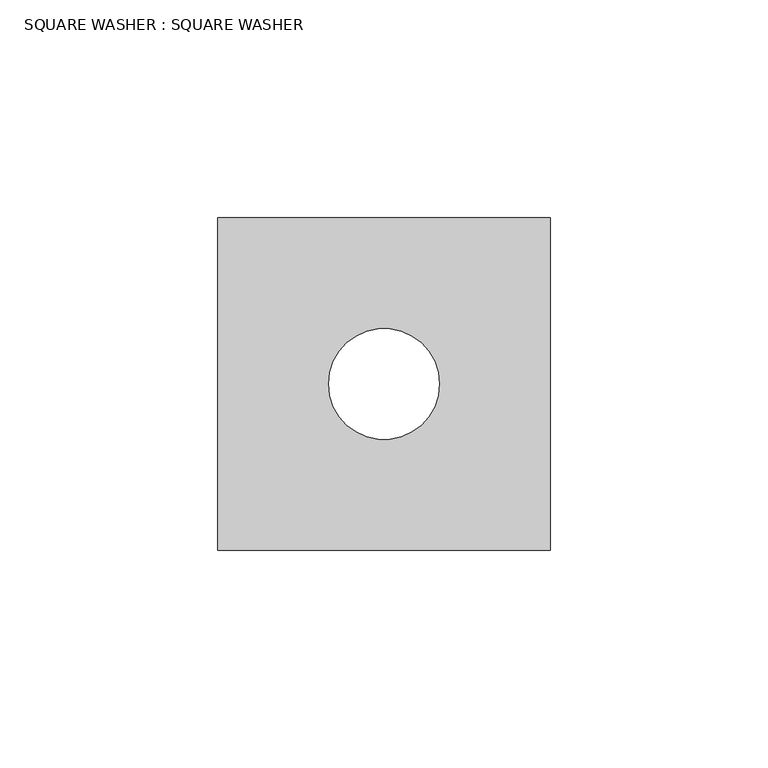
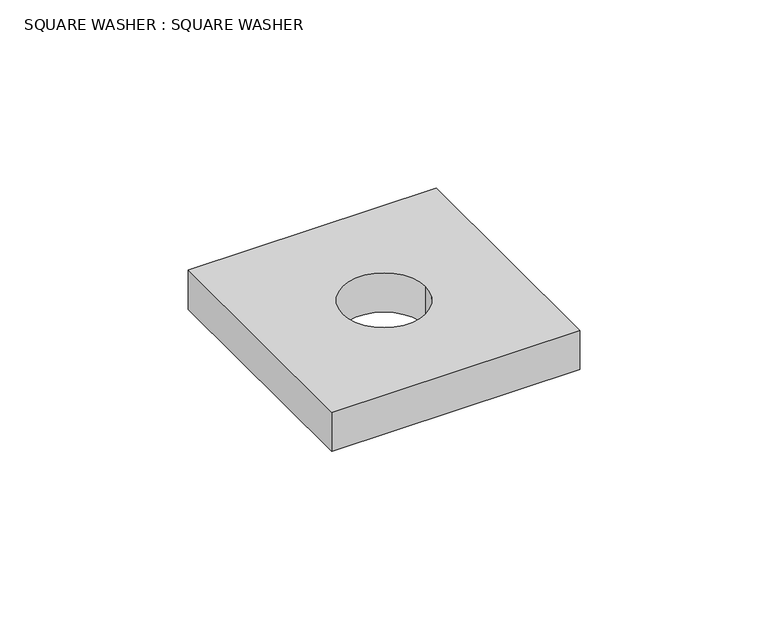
"""IFC4 building model written with IfcOpenShell, lengths in millimetres: proxy geometry, SQUARE WASHER : SQUARE WASHER."""

import ifcopenshell
import ifcopenshell.guid

model = None  # the IFC model being written
_history = None  # IfcOwnerHistory: only IFC2X3 demands one
_inside = {}  # id of a spatial element -> (the spatial element, [elements in it])
_under = {}  # id of a project, library or spatial element -> (it, [spatial elements below it])
_declared = {}  # id of a project -> (the project, [libraries it declares])
_typed = {}  # id of a type object -> (the type object, [elements of that type])
_made_of = {}  # id of a material, layer set ... -> (it, [elements and type objects made of it])


def new_model(schema):
    """Start an empty IFC model of exactly this schema.

    Asked for "IFC4X3", IfcOpenShell would pick the latest addendum, in which some entities
    have other attributes; the version numbers below select the first issue.
    IFC2X3 requires an IfcOwnerHistory on every rooted entity: one is made here for all.
    """
    global model, _history
    if schema == "IFC4X3":
        model = ifcopenshell.file(schema_version=(4, 3, 0, 0))
    else:
        model = ifcopenshell.file(schema=schema)
    _inside.clear()
    _under.clear()
    _declared.clear()
    _typed.clear()
    _made_of.clear()
    _history = None
    if model.schema == "IFC2X3":
        org = make("IfcOrganization", Name="unknown")
        user = make(
            "IfcPersonAndOrganization",
            ThePerson=make("IfcPerson", FamilyName="unknown"),
            TheOrganization=org,
        )
        app = make(
            "IfcApplication",
            ApplicationDeveloper=org,
            Version="unknown",
            ApplicationFullName="unknown",
            ApplicationIdentifier="unknown",
        )
        _history = make(
            "IfcOwnerHistory",
            OwningUser=user,
            OwningApplication=app,
            ChangeAction="ADDED",
            CreationDate=0,
        )
    return model


def make(cls, **values):
    """One entity of the class cls with the attributes given. An attribute that is None is left unset."""
    return model.create_entity(
        cls, **{name: value for name, value in values.items() if value is not None}
    )


def rooted(cls, **values):
    """An entity with a GlobalId (a new one), such as an element, a storey or a relation."""
    return make(cls, GlobalId=ifcopenshell.guid.new(), OwnerHistory=_history, **values)


def si_unit(unit_type, name, prefix=None):
    """IfcSIUnit, for example si_unit("LENGTHUNIT", "METRE", prefix="MILLI")."""
    return make("IfcSIUnit", UnitType=unit_type, Prefix=prefix, Name=name)


def assignment(units):
    """IfcUnitAssignment: the units of a project."""
    return None if units is None else make("IfcUnitAssignment", Units=units)


def point(xyz):
    """IfcCartesianPoint."""
    return None if xyz is None else make("IfcCartesianPoint", Coordinates=xyz)


def direction(xyz):
    """IfcDirection."""
    return None if xyz is None else make("IfcDirection", DirectionRatios=xyz)


def frame(location, z_axis=None, x_axis=None):
    """IfcAxis2Placement3D, a coordinate frame: its origin and axes. An axis left out is left unset."""
    return make(
        "IfcAxis2Placement3D",
        Location=point(location),
        Axis=direction(z_axis),
        RefDirection=direction(x_axis),
    )


def frame_2d(location, x_axis=None):
    """IfcAxis2Placement2D, a coordinate frame in the plane: its origin and x axis."""
    return make(
        "IfcAxis2Placement2D", Location=point(location), RefDirection=direction(x_axis)
    )


def origin():
    """The frame at (0, 0, 0) with its axes left unset."""
    return frame((0.0, 0.0, 0.0))


def origin_with_axes():
    """The frame at (0, 0, 0) with the z axis (0, 0, 1) and the x axis (1, 0, 0) written out."""
    return frame((0.0, 0.0, 0.0), z_axis=(0.0, 0.0, 1.0), x_axis=(1.0, 0.0, 0.0))


def origin_2d():
    """The frame at (0, 0) in the plane with its x axis left unset."""
    return frame_2d((0.0, 0.0))


def place(relative_to, where):
    """IfcLocalPlacement: puts the frame where relative to a parent placement (None: the world)."""
    return make(
        "IfcLocalPlacement", PlacementRelTo=relative_to, RelativePlacement=where
    )


def context(
    kind, dimensions, precision=None, world=None, true_north=None, identifier=None
):
    """IfcGeometricRepresentationContext, for example the 3D "Model" context."""
    return make(
        "IfcGeometricRepresentationContext",
        ContextIdentifier=identifier,
        ContextType=kind,
        CoordinateSpaceDimension=dimensions,
        Precision=precision,
        WorldCoordinateSystem=world,
        TrueNorth=true_north,
    )


def project(units=None, contexts=None):
    """IfcProject with its units and contexts."""
    return rooted(
        "IfcProject",
        Name="project",
        RepresentationContexts=contexts,
        UnitsInContext=assignment(units),
    )


def spatial(cls, under=None, at=None, **own):
    """A site, building, storey or space (cls), placed at a placement, below another one or the project."""
    s = rooted(cls, ObjectPlacement=at, **own)
    if under is not None:
        _under.setdefault(under.id(), (under, []))[1].append(s)
    return s


def polyline(points):
    """IfcPolyline through the points."""
    return make("IfcPolyline", Points=[point(p) for p in points])


def circle_curve(where, radius):
    """IfcCircle in the frame where."""
    return make("IfcCircle", Position=where, Radius=radius)


def trimmed(basis, trim1, trim2, sense, master):
    """IfcTrimmedCurve: the piece of a basis curve between two trims."""
    return make(
        "IfcTrimmedCurve",
        BasisCurve=basis,
        Trim1=trim1,
        Trim2=trim2,
        SenseAgreement=sense,
        MasterRepresentation=master,
    )


def segment(curve, same_sense, transition):
    """IfcCompositeCurveSegment."""
    return make(
        "IfcCompositeCurveSegment",
        Transition=transition,
        SameSense=same_sense,
        ParentCurve=curve,
    )


def composite_curve(segments, self_intersect=None):
    """IfcCompositeCurve: segments joined end to end."""
    return make("IfcCompositeCurve", Segments=segments, SelfIntersect=self_intersect)


def outline(outer, holes=None, kind="AREA"):
    """IfcArbitraryClosedProfileDef: a profile drawn as a closed curve; with holes, ...WithVoids."""
    if holes is None:
        return make("IfcArbitraryClosedProfileDef", ProfileType=kind, OuterCurve=outer)
    return make(
        "IfcArbitraryProfileDefWithVoids",
        ProfileType=kind,
        OuterCurve=outer,
        InnerCurves=holes,
    )


def extrude(swept, where, along, depth):
    """IfcExtrudedAreaSolid: the profile swept, set in the frame where, extruded along a direction by depth."""
    return make(
        "IfcExtrudedAreaSolid",
        SweptArea=swept,
        Position=where,
        ExtrudedDirection=direction(along),
        Depth=depth,
    )


def shape(context_of_items, identifier, shape_type, items):
    """IfcShapeRepresentation: the items that make up one representation, for example the "Body"."""
    return make(
        "IfcShapeRepresentation",
        ContextOfItems=context_of_items,
        RepresentationIdentifier=identifier,
        RepresentationType=shape_type,
        Items=items,
    )


def source(mapping_origin, context_of_items, identifier, shape_type, items):
    """IfcRepresentationMap: a shape defined once, which mapped items show again and again."""
    return make(
        "IfcRepresentationMap",
        MappingOrigin=mapping_origin,
        MappedRepresentation=shape(context_of_items, identifier, shape_type, items),
    )


def transform(
    local_origin,
    x_axis=None,
    y_axis=None,
    z_axis=None,
    scale=None,
    scale2=None,
    scale3=None,
    uniform=True,
):
    """IfcCartesianTransformationOperator3D, or its non-uniform kind. x_axis, y_axis, z_axis: its Axis1, 2, 3."""
    if uniform:
        return make(
            "IfcCartesianTransformationOperator3D",
            Axis1=direction(x_axis),
            Axis2=direction(y_axis),
            LocalOrigin=point(local_origin),
            Scale=scale,
            Axis3=direction(z_axis),
        )
    return make(
        "IfcCartesianTransformationOperator3DnonUniform",
        Axis1=direction(x_axis),
        Axis2=direction(y_axis),
        LocalOrigin=point(local_origin),
        Scale=scale,
        Axis3=direction(z_axis),
        Scale2=scale2,
        Scale3=scale3,
    )


def mapped(mapping_source, mapping_target):
    """IfcMappedItem: shows the shape of a source again, moved by a transform."""
    return make(
        "IfcMappedItem", MappingSource=mapping_source, MappingTarget=mapping_target
    )


def made_of(thing, what):
    """Note that an element or type object is made of a material, layer set ...; save() writes the relation."""
    if what is not None:
        _made_of.setdefault(what.id(), (what, []))[1].append(thing)
    return thing


def element(
    cls,
    number,
    at=None,
    inside=None,
    cuts=None,
    type_object=None,
    material=None,
    context=None,
    identifier="Body",
    shape_type=None,
    held_by="IfcProductDefinitionShape",
    body=None,
    shapes=None,
    **own,
):
    """One element of the class cls, such as IfcWall. Its Tag is "e" and its number.

    at: its placement. inside: the storey or other place that contains it. cuts: it is an
    opening in that element (IfcRelVoidsElement). A single representation is given by context,
    identifier, shape_type and body (its items); several are given by shapes. held_by: the class
    of the entity that holds the representations. save() writes the other relations.
    """
    e = rooted(cls, Tag="e%d" % number, ObjectPlacement=at, **own)
    if body is not None:
        shapes = [shape(context, identifier, shape_type, body)]
    if shapes is not None:
        e.Representation = make(held_by, Representations=shapes)
    if inside is not None:
        _inside.setdefault(inside.id(), (inside, []))[1].append(e)
    if cuts is not None:
        rooted(
            "IfcRelVoidsElement", RelatingBuildingElement=cuts, RelatedOpeningElement=e
        )
    if type_object is not None:
        _typed.setdefault(type_object.id(), (type_object, []))[1].append(e)
    return made_of(e, material)


def aggregate(whole, parts):
    """IfcRelAggregates: a whole, such as a stair, and the parts it consists of."""
    return rooted("IfcRelAggregates", RelatingObject=whole, RelatedObjects=parts)


def save(model, path):
    """Write the relations noted so far, then the file.

    IfcRelAggregates (storeys below a building ...), IfcRelContainedInSpatialStructure (elements
    in a storey), IfcRelDefinesByType, IfcRelAssociatesMaterial and IfcRelDeclares: one each for
    every whole, place, type object, material and project.
    """
    for whole, parts in _under.values():
        aggregate(whole, parts)
    for where, things in _inside.values():
        rooted(
            "IfcRelContainedInSpatialStructure",
            RelatedElements=things,
            RelatingStructure=where,
        )
    for kind, things in _typed.values():
        rooted("IfcRelDefinesByType", RelatedObjects=things, RelatingType=kind)
    for what, things in _made_of.values():
        rooted("IfcRelAssociatesMaterial", RelatedObjects=things, RelatingMaterial=what)
    for by, libraries in _declared.values():
        rooted("IfcRelDeclares", RelatingContext=by, RelatedDefinitions=libraries)
    model.write(path)


def square_washer_square_washer_77dea3ba(model_context):
    return source(origin(), model_context, "Body", "SweptSolid", [
        extrude(outline(polyline([(38.1, 38.1), (38.1, -38.1), (-38.1, -38.1), (-38.1, 38.1), (38.1, 38.1)]), holes=[composite_curve([segment(trimmed(circle_curve(origin_2d(), 12.7), [point((-12.7, 0.0))], [point((12.7, 0.0))], True, "CARTESIAN"), True, "CONTINUOUS"), segment(trimmed(circle_curve(origin_2d(), 12.7), [point((12.7, 0.0))], [point((-12.7, 0.0))], True, "CARTESIAN"), True, "CONTINUOUS")], self_intersect=False)]), origin_with_axes(), (0.0, 0.0, 1.0), 12.7),
    ])


if __name__ == "__main__":
    model = new_model("IFC4")
    model_context = context("Model", 3, world=origin())
    ifc_project = project(units=[si_unit("LENGTHUNIT", "METRE", prefix="MILLI")], contexts=[model_context])
    site = spatial("IfcSite", under=ifc_project)
    building = spatial("IfcBuilding", under=site)
    placement = place(None, origin())
    square_washer_square_washer_shape = square_washer_square_washer_77dea3ba(model_context)
    element("IfcBuildingElementProxy", 1, Name="SQUARE WASHER : SQUARE WASHER", ObjectType="SQUARE WASHER : SQUARE WASHER", at=placement, inside=building, context=model_context, shape_type="MappedRepresentation", body=[
        mapped(square_washer_square_washer_shape, transform((0.0, 0.0, 0.0), x_axis=(1.0, 0.0, 0.0), y_axis=(0.0, 1.0, 0.0), z_axis=(0.0, 0.0, 1.0))),
    ])
    save(model, "model.ifc")
